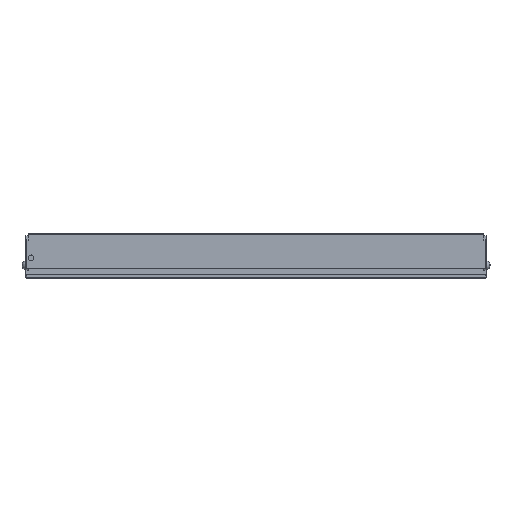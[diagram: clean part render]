
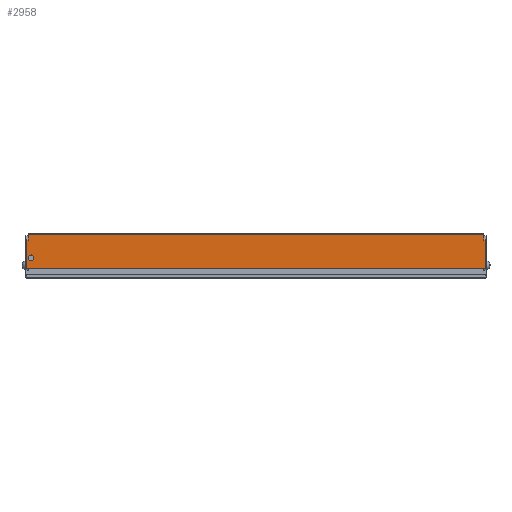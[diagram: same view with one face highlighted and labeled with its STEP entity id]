
A CAD part, top view. The second image highlights one B-rep face of the part: STEP entity #2958.
In plain terms, the highlighted planar face has unit normal (0, 0, 1) as drawn and (1, 0, 0) by its records, which use the part's own axes.
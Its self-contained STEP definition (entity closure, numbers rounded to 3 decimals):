
#332=DIRECTION('',(0.,1.,0.));
#333=VECTOR('',#332,17.499);
#334=CARTESIAN_POINT('',(9.,-4.3,-140.5));
#335=LINE('',#334,#333);
#735=DIRECTION('',(0.,0.,1.));
#736=VECTOR('',#735,1.);
#737=CARTESIAN_POINT('',(9.,13.197,139.5));
#738=LINE('',#737,#736);
#759=DIRECTION('',(0.,-1.,0.));
#760=VECTOR('',#759,3.303);
#761=CARTESIAN_POINT('',(9.,16.5,139.5));
#762=LINE('',#761,#760);
#827=CARTESIAN_POINT('',(9.,2.3,137.75));
#828=DIRECTION('',(1.,0.,0.));
#829=DIRECTION('',(0.,0.,-1.));
#830=AXIS2_PLACEMENT_3D('',#827,#828,#829);
#832=CARTESIAN_POINT('',(9.,2.3,137.75));
#833=DIRECTION('',(1.,0.,0.));
#834=DIRECTION('',(0.,0.,1.));
#835=AXIS2_PLACEMENT_3D('',#832,#833,#834);
#837=DIRECTION('',(0.,-1.,0.));
#838=VECTOR('',#837,3.301);
#839=CARTESIAN_POINT('',(9.,16.5,-139.5));
#840=LINE('',#839,#838);
#841=DIRECTION('',(0.,0.,-1.));
#842=VECTOR('',#841,1.);
#843=CARTESIAN_POINT('',(9.,13.199,-139.5));
#844=LINE('',#843,#842);
#845=DIRECTION('',(0.,0.,1.));
#846=VECTOR('',#845,281.);
#847=CARTESIAN_POINT('',(9.,-4.3,-140.5));
#848=LINE('',#847,#846);
#849=DIRECTION('',(0.,0.,-1.));
#850=VECTOR('',#849,279.);
#851=CARTESIAN_POINT('',(9.,16.5,139.5));
#852=LINE('',#851,#850);
#1391=DIRECTION('',(0.,-1.,0.));
#1392=VECTOR('',#1391,17.497);
#1393=CARTESIAN_POINT('',(9.,13.197,140.5));
#1394=LINE('',#1393,#1392);
#1696=CARTESIAN_POINT('',(9.,13.197,140.5));
#1698=VERTEX_POINT('',#1696);
#1699=CARTESIAN_POINT('',(9.,-4.3,140.5));
#1700=VERTEX_POINT('',#1699);
#1787=CARTESIAN_POINT('',(9.,16.5,-139.5));
#1789=VERTEX_POINT('',#1787);
#1801=CARTESIAN_POINT('',(9.,16.5,139.5));
#1802=VERTEX_POINT('',#1801);
#1803=CARTESIAN_POINT('',(9.,2.3,139.5));
#1805=VERTEX_POINT('',#1803);
#1809=CARTESIAN_POINT('',(9.,2.3,136.));
#1810=VERTEX_POINT('',#1809);
#1815=CARTESIAN_POINT('',(9.,13.197,139.5));
#1816=VERTEX_POINT('',#1815);
#1921=CARTESIAN_POINT('',(9.,13.199,-140.5));
#1923=VERTEX_POINT('',#1921);
#1925=CARTESIAN_POINT('',(9.,-4.3,-140.5));
#1926=VERTEX_POINT('',#1925);
#1965=CARTESIAN_POINT('',(9.,13.199,-139.5));
#1967=VERTEX_POINT('',#1965);
#2935=CARTESIAN_POINT('',(9.,-4.3,139.5));
#2936=DIRECTION('',(1.,0.,0.));
#2937=DIRECTION('',(0.,1.,0.));
#2938=AXIS2_PLACEMENT_3D('',#2935,#2936,#2937);
#2939=PLANE('',#2938);
#2940=ORIENTED_EDGE('',*,*,#2030,.T.);
#2941=ORIENTED_EDGE('',*,*,#2375,.T.);
#2942=ORIENTED_EDGE('',*,*,#2359,.F.);
#2944=ORIENTED_EDGE('',*,*,#2943,.T.);
#2946=ORIENTED_EDGE('',*,*,#2945,.F.);
#2947=ORIENTED_EDGE('',*,*,#2792,.F.);
#2948=ORIENTED_EDGE('',*,*,#2819,.F.);
#2949=ORIENTED_EDGE('',*,*,#2928,.T.);
#2950=EDGE_LOOP('',(#2940,#2941,#2942,#2944,#2946,#2947,#2948,#2949));
#2951=FACE_OUTER_BOUND('',#2950,.F.);
#2953=ORIENTED_EDGE('',*,*,#2952,.T.);
#2955=ORIENTED_EDGE('',*,*,#2954,.T.);
#2956=EDGE_LOOP('',(#2953,#2955));
#2957=FACE_BOUND('',#2956,.F.);
#831=CIRCLE('',#830,1.75);
#836=CIRCLE('',#835,1.75);
#2030=EDGE_CURVE('',#1789,#1967,#840,.T.);
#2359=EDGE_CURVE('',#1926,#1923,#335,.T.);
#2375=EDGE_CURVE('',#1967,#1923,#844,.T.);
#2792=EDGE_CURVE('',#1816,#1698,#738,.T.);
#2819=EDGE_CURVE('',#1802,#1816,#762,.T.);
#2928=EDGE_CURVE('',#1802,#1789,#852,.T.);
#2943=EDGE_CURVE('',#1926,#1700,#848,.T.);
#2945=EDGE_CURVE('',#1698,#1700,#1394,.T.);
#2952=EDGE_CURVE('',#1810,#1805,#831,.T.);
#2954=EDGE_CURVE('',#1805,#1810,#836,.T.);
#2958=ADVANCED_FACE('',(#2951,#2957),#2939,.T.);
